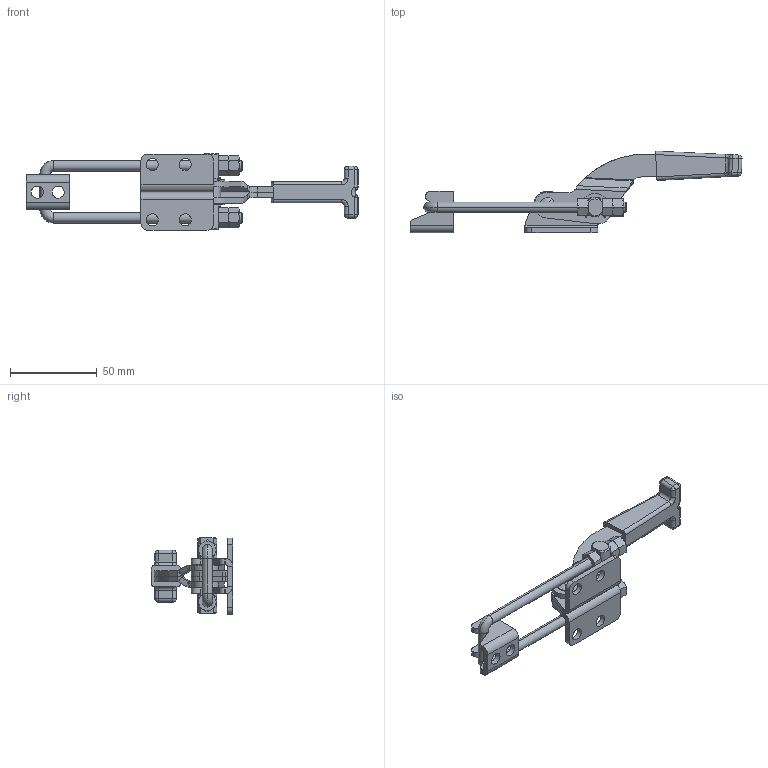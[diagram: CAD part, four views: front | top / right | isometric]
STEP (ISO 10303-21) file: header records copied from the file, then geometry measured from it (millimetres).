
FILE_DESCRIPTION(('CATIA V5 STEP Exchange'),'2;1');
FILE_NAME('\\kjf-102\KJF_TC\Toggle_Clamp\LATCH TYPE\KJF-032-41F\KJF-032-42FB_A.stp','2025-02-19T01:35:24+00:00',('none'),('none'),'CATIA Version 5 Release 19 SP 9 (IN-10)','CATIA V5 STEP AP214','none');
FILE_SCHEMA(('AUTOMOTIVE_DESIGN { 1 0 10303 214 1 1 1 1 }'));
Length unit declared in the file: millimetre
Products named in the file (13): KJF-032-42FB_A; KJF-032-41F_A_BASE-LH; KJF-032-41F_A_BASE-RH; KJF-032-42F_-_U-BOKT; KJF-032-41F_-_LATCH; KJF-032-41F_-_GUIDE-PIN; KJF-032-41F_-_RIVET; KJF-032-41FS_-_BUSH; KJF-032-41FB_-_HANDLE-LH; KJF-032-41FB_-_HANDLE-RH; KJF-032-41FB_-_HAND-GRIP; SNAP-RING E-8 ; NUT M6
Assembly tree (18 placements, depth 2):
  KJF-032-42FB_A
    KJF-032-41F_A_BASE-LH
    KJF-032-41F_A_BASE-RH
    KJF-032-42F_-_U-BOKT
    KJF-032-41F_-_LATCH
    KJF-032-41F_-_GUIDE-PIN
    KJF-032-41F_-_RIVET
    KJF-032-41FS_-_BUSH
    KJF-032-41FB_-_HANDLE-LH
    KJF-032-41FB_-_HANDLE-RH
    KJF-032-41FB_-_HAND-GRIP
    SNAP-RING E-8   x2
    NUT M6  x6
Bounding box: 191.53 x 47.13 x 44.2 mm (x, y, z)
Volume: 46315.7 mm3; surface area: 32768.1 mm2
Topology: 18 solids, 18 shells, 792 faces, 1946 edges, 1180 vertices
Faces by surface type: plane 443, cylinder 259, cone 50, sphere 14, bspline 13, torus 9, extrusion 4
Entity records: 19473 total; most frequent: CARTESIAN_POINT 4763, ORIENTED_EDGE 3380, DIRECTION 2212, EDGE_CURVE 1690, VERTEX_POINT 1020, AXIS2_PLACEMENT_3D 958, VECTOR 851, LINE 847
